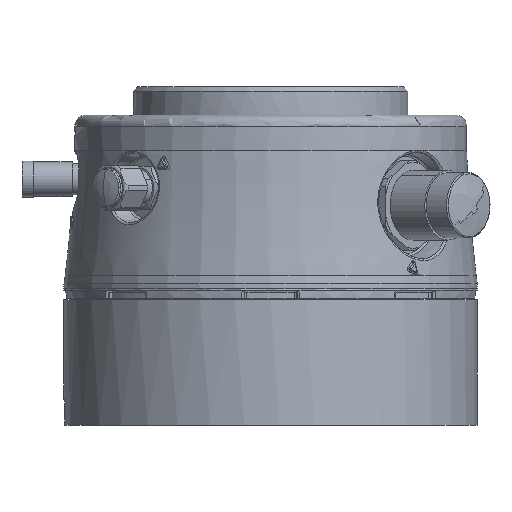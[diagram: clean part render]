
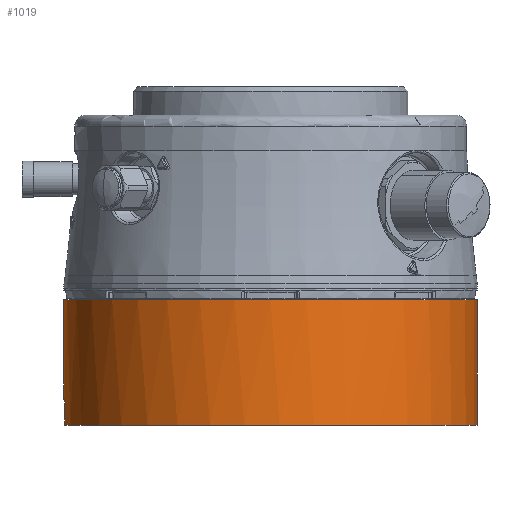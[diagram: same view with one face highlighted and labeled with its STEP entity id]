
A CAD part, front view. The second image highlights one B-rep face of the part: STEP entity #1019.
In plain terms, the highlighted cylindrical face has radius 47.5 mm (diameter 95 mm), a partial arc.
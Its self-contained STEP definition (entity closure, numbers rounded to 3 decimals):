
#322=B_SPLINE_CURVE_WITH_KNOTS('',3,(#10776,#10778,#10779,#10780,#10781,
#10782,#10783,#10784,#10777),.UNSPECIFIED.,.F.,.U.,(4,1,1,1,1,1,4),(0.,
0.167,0.333,0.5,0.667,0.833,1.),
 .UNSPECIFIED.);
#824=CYLINDRICAL_SURFACE('',#20706,47.5);
#1019=ADVANCED_FACE('1300_MODEL_AIR-C007',(#1770),#824,.T.);
#1770=FACE_OUTER_BOUND('',#9813,.T.);
#2437=CIRCLE('',#20692,47.5);
#2442=CIRCLE('',#20700,47.5);
#2445=CIRCLE('',#20707,47.5);
#3073=ORIENTED_EDGE('',*,*,#6227,.F.);
#3074=ORIENTED_EDGE('',*,*,#6221,.T.);
#3075=ORIENTED_EDGE('',*,*,#6220,.T.);
#3076=ORIENTED_EDGE('',*,*,#6230,.T.);
#3077=ORIENTED_EDGE('',*,*,#6208,.T.);
#3078=ORIENTED_EDGE('',*,*,#6229,.T.);
#3079=ORIENTED_EDGE('',*,*,#6231,.F.);
#6208=EDGE_CURVE('3',#8832,#8831,#2437,.T.);
#6220=EDGE_CURVE('14',#8840,#8841,#322,.T.);
#6221=EDGE_CURVE('16',#8842,#8840,#2442,.T.);
#6227=EDGE_CURVE('22',#8842,#8845,#8330,.T.);
#6229=EDGE_CURVE('24',#8831,#8846,#8331,.T.);
#6230=EDGE_CURVE('26',#8841,#8832,#8332,.T.);
#6231=EDGE_CURVE('25',#8845,#8846,#2445,.T.);
#7802=VECTOR('',#21840,22.8);
#7803=VECTOR('',#21840,28.8);
#7804=VECTOR('',#21842,5.);
#8330=LINE('',#10786,#7802);
#8331=LINE('',#10762,#7803);
#8332=LINE('',#10777,#7804);
#8831=VERTEX_POINT('3',#10762);
#8832=VERTEX_POINT('4',#10764);
#8840=VERTEX_POINT('13',#10776);
#8841=VERTEX_POINT('12',#10777);
#8842=VERTEX_POINT('14',#10786);
#8845=VERTEX_POINT('17',#10801);
#8846=VERTEX_POINT('18',#10802);
#9813=EDGE_LOOP('',(#3073,#3074,#3075,#3076,#3077,#3078,#3079));
#10762=CARTESIAN_POINT('',(147.5,930.,672.));
#10763=CARTESIAN_POINT('',(100.,930.,672.));
#10764=CARTESIAN_POINT('',(52.669,926.,672.));
#10776=CARTESIAN_POINT('',(52.595,927.,678.));
#10777=CARTESIAN_POINT('',(52.669,926.,677.));
#10778=CARTESIAN_POINT('',(52.6,926.913,678.));
#10779=CARTESIAN_POINT('',(52.612,926.738,677.977));
#10780=CARTESIAN_POINT('',(52.629,926.494,677.876));
#10781=CARTESIAN_POINT('',(52.645,926.284,677.715));
#10782=CARTESIAN_POINT('',(52.658,926.124,677.505));
#10783=CARTESIAN_POINT('',(52.667,926.023,677.261));
#10784=CARTESIAN_POINT('',(52.669,926.,677.087));
#10786=CARTESIAN_POINT('',(52.5,930.,678.));
#10787=CARTESIAN_POINT('',(100.,930.,678.));
#10801=CARTESIAN_POINT('',(52.5,930.,700.8));
#10802=CARTESIAN_POINT('',(147.5,930.,700.8));
#10803=CARTESIAN_POINT('',(100.,930.,700.8));
#10804=CARTESIAN_POINT('',(100.,930.,672.));
#20692=AXIS2_PLACEMENT_3D('',#10763,#21840,#21845);
#20700=AXIS2_PLACEMENT_3D('',#10787,#21840,#21843);
#20706=AXIS2_PLACEMENT_3D('',#10804,#21840,#21853);
#20707=AXIS2_PLACEMENT_3D('',#10803,#21840,#21843);
#21840=DIRECTION('',(0.,0.,1.));
#21842=DIRECTION('',(0.,0.,-1.));
#21843=DIRECTION('',(-1.,0.,0.));
#21845=DIRECTION('',(-0.996,-0.084,0.));
#21853=DIRECTION('',(-1.,0.011,0.));
